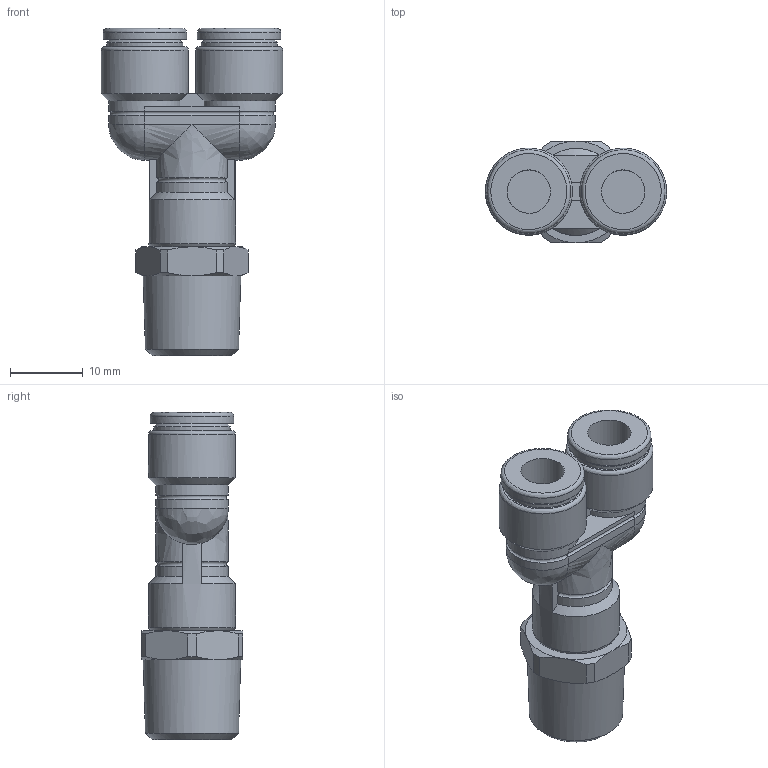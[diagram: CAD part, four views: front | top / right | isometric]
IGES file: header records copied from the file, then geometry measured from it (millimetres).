
Global section: file name: [06] FS6-02MY FS6-02MYW; native system: Autodesk Inventor 2014; preprocessor: unknown; author: kazuhiro.t; date: 20130806.165726; units: millimetre
Bounding box: 25 x 14 x 45.1 mm (x, y, z)
Volume: 6228.7 mm3; surface area: 3412.3 mm2
Topology: 1 solids, 1 shells, 88 faces, 206 edges, 124 vertices
Faces by surface type: bspline 88
